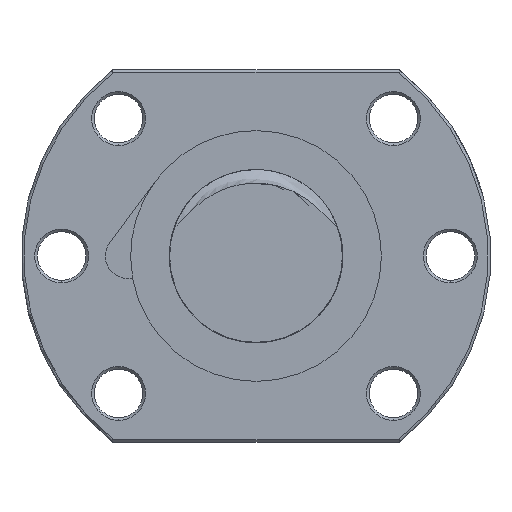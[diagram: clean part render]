
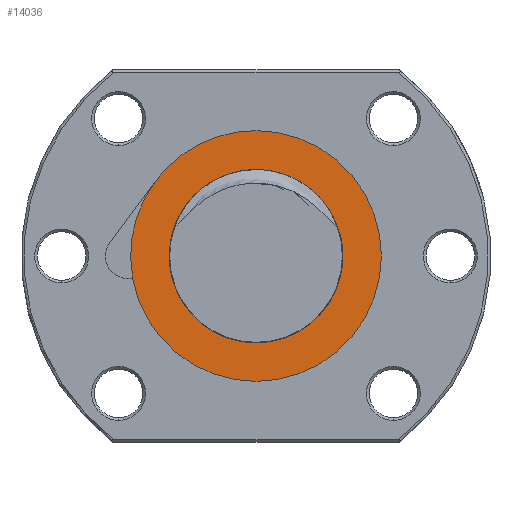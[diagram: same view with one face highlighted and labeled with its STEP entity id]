
A CAD part, left-side view. The second image highlights one B-rep face of the part: STEP entity #14036.
In plain terms, the highlighted planar face has unit normal (-1, 0, 0).
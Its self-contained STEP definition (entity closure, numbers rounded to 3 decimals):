
#13674 = EDGE_CURVE ( 'NONE', #13690, #13702, #21918, .T. ) ;
#13688 = EDGE_CURVE ( 'NONE', #13689, #13690, #22287, .T. ) ;
#13689 = VERTEX_POINT ( 'NONE', #22250 ) ;
#13690 = VERTEX_POINT ( 'NONE', #22249 ) ;
#13702 = VERTEX_POINT ( 'NONE', #22181 ) ;
#13864 = VERTEX_POINT ( 'NONE', #22523 ) ;
#13866 = EDGE_CURVE ( 'NONE', #13864, #13867, #22522, .T. ) ;
#13867 = VERTEX_POINT ( 'NONE', #22517 ) ;
#13950 = VERTEX_POINT ( 'NONE', #22906 ) ;
#13952 = EDGE_CURVE ( 'NONE', #13950, #13864, #22875, .T. ) ;
#13953 = EDGE_LOOP ( 'NONE', ( #14037, #14038, #13974 ) ) ;
#13956 = EDGE_CURVE ( 'NONE', #14159, #13689, #22857, .T. ) ;
#13974 = ORIENTED_EDGE ( 'NONE', *, *, #13866, .F. ) ;
#13975 = EDGE_LOOP ( 'NONE', ( #13976, #13978, #13979, #13980 ) ) ;
#13976 = ORIENTED_EDGE ( 'NONE', *, *, #13977, .T. ) ;
#13977 = EDGE_CURVE ( 'NONE', #13702, #14159, #22751, .T. ) ;
#13978 = ORIENTED_EDGE ( 'NONE', *, *, #13956, .T. ) ;
#13979 = ORIENTED_EDGE ( 'NONE', *, *, #13688, .T. ) ;
#13980 = ORIENTED_EDGE ( 'NONE', *, *, #13674, .T. ) ;
#13982 = EDGE_CURVE ( 'NONE', #13867, #13950, #22740, .T. ) ;
#14036 = ADVANCED_FACE ( 'NONE', ( #23120, #23115 ), #23111, .T. ) ;
#14037 = ORIENTED_EDGE ( 'NONE', *, *, #13952, .F. ) ;
#14038 = ORIENTED_EDGE ( 'NONE', *, *, #13982, .F. ) ;
#14159 = VERTEX_POINT ( 'NONE', #23341 ) ;
#21914 = DIRECTION ( 'NONE',  ( 0., 0., 1. ) ) ;
#21915 = DIRECTION ( 'NONE',  ( -1., 0., 0. ) ) ;
#21916 = CARTESIAN_POINT ( 'NONE',  ( -91.8, 0., 0. ) ) ;
#21917 = AXIS2_PLACEMENT_3D ( 'NONE', #21916, #21915, #21914 ) ;
#21918 = CIRCLE ( 'NONE', #21917, 23.225 ) ;
#22181 = CARTESIAN_POINT ( 'NONE',  ( -91.8, 18.649, 13.843 ) ) ;
#22249 = CARTESIAN_POINT ( 'NONE',  ( -91.8, 0., 23.225 ) ) ;
#22250 = CARTESIAN_POINT ( 'NONE',  ( -91.8, 0., -23.225 ) ) ;
#22251 = DIRECTION ( 'NONE',  ( 0., 0., 1. ) ) ;
#22252 = DIRECTION ( 'NONE',  ( -1., 0., 0. ) ) ;
#22253 = CARTESIAN_POINT ( 'NONE',  ( -91.8, 0., 0. ) ) ;
#22254 = AXIS2_PLACEMENT_3D ( 'NONE', #22253, #22252, #22251 ) ;
#22287 = CIRCLE ( 'NONE', #22254, 23.225 ) ;
#22517 = CARTESIAN_POINT ( 'NONE',  ( -91.8, -15.587, 4.033 ) ) ;
#22518 = DIRECTION ( 'NONE',  ( 0., 0., 1. ) ) ;
#22519 = DIRECTION ( 'NONE',  ( -1., 0., 0. ) ) ;
#22520 = CARTESIAN_POINT ( 'NONE',  ( -91.8, 0., 0. ) ) ;
#22521 = AXIS2_PLACEMENT_3D ( 'NONE', #22520, #22519, #22518 ) ;
#22522 = CIRCLE ( 'NONE', #22521, 16.1 ) ;
#22523 = CARTESIAN_POINT ( 'NONE',  ( -91.8, 0., -16.1 ) ) ;
#22699 = CARTESIAN_POINT ( 'NONE',  ( -91.8, 14.764, 6.422 ) ) ;
#22700 = CARTESIAN_POINT ( 'NONE',  ( -91.8, 14.598, 6.507 ) ) ;
#22701 = CARTESIAN_POINT ( 'NONE',  ( -91.8, 14.442, 6.613 ) ) ;
#22702 = CARTESIAN_POINT ( 'NONE',  ( -91.8, 14.14, 6.836 ) ) ;
#22703 = CARTESIAN_POINT ( 'NONE',  ( -91.8, 13.995, 6.954 ) ) ;
#22704 = CARTESIAN_POINT ( 'NONE',  ( -91.8, 13.565, 7.317 ) ) ;
#22705 = CARTESIAN_POINT ( 'NONE',  ( -91.8, 13.287, 7.568 ) ) ;
#22706 = CARTESIAN_POINT ( 'NONE',  ( -91.8, 12.452, 8.322 ) ) ;
#22707 = CARTESIAN_POINT ( 'NONE',  ( -91.8, 11.893, 8.822 ) ) ;
#22708 = CARTESIAN_POINT ( 'NONE',  ( -91.8, 10.73, 9.769 ) ) ;
#22709 = CARTESIAN_POINT ( 'NONE',  ( -91.8, 10.13, 10.216 ) ) ;
#22710 = CARTESIAN_POINT ( 'NONE',  ( -91.8, 8.888, 11.037 ) ) ;
#22711 = CARTESIAN_POINT ( 'NONE',  ( -91.8, 8.245, 11.412 ) ) ;
#22712 = CARTESIAN_POINT ( 'NONE',  ( -91.8, 6.912, 12.081 ) ) ;
#22713 = CARTESIAN_POINT ( 'NONE',  ( -91.8, 6.216, 12.377 ) ) ;
#22714 = CARTESIAN_POINT ( 'NONE',  ( -91.8, 4.807, 12.868 ) ) ;
#22715 = CARTESIAN_POINT ( 'NONE',  ( -91.8, 4.091, 13.065 ) ) ;
#22716 = CARTESIAN_POINT ( 'NONE',  ( -91.8, 2.635, 13.36 ) ) ;
#22717 = CARTESIAN_POINT ( 'NONE',  ( -91.8, 1.894, 13.458 ) ) ;
#22718 = CARTESIAN_POINT ( 'NONE',  ( -91.8, 0.393, 13.549 ) ) ;
#22719 = CARTESIAN_POINT ( 'NONE',  ( -91.8, -0.351, 13.54 ) ) ;
#22720 = CARTESIAN_POINT ( 'NONE',  ( -91.8, -1.829, 13.421 ) ) ;
#22721 = CARTESIAN_POINT ( 'NONE',  ( -91.8, -2.562, 13.31 ) ) ;
#22722 = CARTESIAN_POINT ( 'NONE',  ( -91.8, -4.017, 12.984 ) ) ;
#22723 = CARTESIAN_POINT ( 'NONE',  ( -91.8, -4.742, 12.767 ) ) ;
#22724 = CARTESIAN_POINT ( 'NONE',  ( -91.8, -6.137, 12.242 ) ) ;
#22725 = CARTESIAN_POINT ( 'NONE',  ( -91.8, -6.811, 11.933 ) ) ;
#22726 = CARTESIAN_POINT ( 'NONE',  ( -91.8, -8.118, 11.227 ) ) ;
#22727 = CARTESIAN_POINT ( 'NONE',  ( -91.8, -8.75, 10.829 ) ) ;
#22728 = CARTESIAN_POINT ( 'NONE',  ( -91.8, -10.578, 9.511 ) ) ;
#22729 = CARTESIAN_POINT ( 'NONE',  ( -91.8, -11.658, 8.495 ) ) ;
#22730 = CARTESIAN_POINT ( 'NONE',  ( -91.8, -13.141, 6.835 ) ) ;
#22731 = CARTESIAN_POINT ( 'NONE',  ( -91.8, -13.612, 6.257 ) ) ;
#22732 = CARTESIAN_POINT ( 'NONE',  ( -91.8, -14.314, 5.388 ) ) ;
#22733 = CARTESIAN_POINT ( 'NONE',  ( -91.8, -14.548, 5.098 ) ) ;
#22734 = CARTESIAN_POINT ( 'NONE',  ( -91.8, -14.913, 4.676 ) ) ;
#22735 = CARTESIAN_POINT ( 'NONE',  ( -91.8, -15.037, 4.538 ) ) ;
#22736 = CARTESIAN_POINT ( 'NONE',  ( -91.8, -15.298, 4.272 ) ) ;
#22737 = CARTESIAN_POINT ( 'NONE',  ( -91.8, -15.435, 4.144 ) ) ;
#22738 = CARTESIAN_POINT ( 'NONE',  ( -91.8, -15.587, 4.033 ) ) ;
#22740 = B_SPLINE_CURVE_WITH_KNOTS ( 'NONE', 3,
 ( #22738, #22737, #22736, #22735, #22734, #22733, #22732, #22731, #22730, #22729, #22728, #22727, #22726, #22725, #22724, #22723, #22722, #22721, #22720, #22719, #22718, #22717, #22716, #22715, #22714, #22713, #22712, #22711, #22710, #22709, #22708, #22707, #22706, #22705, #22704, #22703, #22702, #22701, #22700, #22699 ),
 .UNSPECIFIED., .F., .F.,
 ( 4, 2, 2, 2, 2, 2, 2, 2, 2, 2, 2, 2, 2, 2, 2, 2, 2, 2, 2, 4 ),
 ( 0.051, 0.052, 0.052, 0.053, 0.056, 0.06, 0.062, 0.065, 0.067, 0.069, 0.072, 0.074, 0.076, 0.078, 0.081, 0.083, 0.085, 0.086, 0.087, 0.087 ),
 .UNSPECIFIED. ) ;
#22747 = DIRECTION ( 'NONE',  ( 0., 0., 1. ) ) ;
#22748 = DIRECTION ( 'NONE',  ( -1., 0., 0. ) ) ;
#22749 = CARTESIAN_POINT ( 'NONE',  ( -91.8, 0., 0. ) ) ;
#22750 = AXIS2_PLACEMENT_3D ( 'NONE', #22749, #22748, #22747 ) ;
#22751 = CIRCLE ( 'NONE', #22750, 23.225 ) ;
#22853 = DIRECTION ( 'NONE',  ( 0., 0., 1. ) ) ;
#22854 = DIRECTION ( 'NONE',  ( -1., 0., 0. ) ) ;
#22855 = CARTESIAN_POINT ( 'NONE',  ( -91.8, 0., 0. ) ) ;
#22856 = AXIS2_PLACEMENT_3D ( 'NONE', #22855, #22854, #22853 ) ;
#22857 = CIRCLE ( 'NONE', #22856, 23.225 ) ;
#22872 = DIRECTION ( 'NONE',  ( 0., 0., 1. ) ) ;
#22873 = DIRECTION ( 'NONE',  ( -1., 0., 0. ) ) ;
#22874 = AXIS2_PLACEMENT_3D ( 'NONE', #22907, #22873, #22872 ) ;
#22875 = CIRCLE ( 'NONE', #22874, 16.1 ) ;
#22906 = CARTESIAN_POINT ( 'NONE',  ( -91.8, 14.764, 6.422 ) ) ;
#22907 = CARTESIAN_POINT ( 'NONE',  ( -91.8, 0., 0. ) ) ;
#23107 = DIRECTION ( 'NONE',  ( 0., 0., 1. ) ) ;
#23108 = DIRECTION ( 'NONE',  ( -1., 0., 0. ) ) ;
#23109 = CARTESIAN_POINT ( 'NONE',  ( -91.8, 0., 16.1 ) ) ;
#23110 = AXIS2_PLACEMENT_3D ( 'NONE', #23109, #23108, #23107 ) ;
#23111 = PLANE ( 'NONE',  #23110 ) ;
#23115 = FACE_OUTER_BOUND ( 'NONE', #13975, .T. ) ;
#23120 = FACE_BOUND ( 'NONE', #13953, .T. ) ;
#23341 = CARTESIAN_POINT ( 'NONE',  ( -91.8, 22.863, -4.085 ) ) ;
